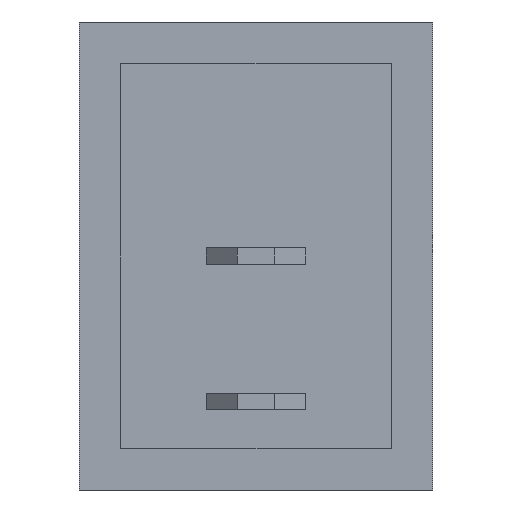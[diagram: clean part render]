
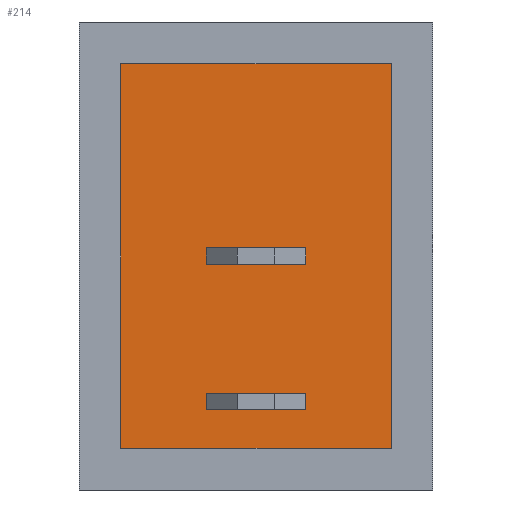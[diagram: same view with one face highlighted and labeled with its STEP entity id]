
A CAD part, front view. The second image highlights one B-rep face of the part: STEP entity #214.
In plain terms, the highlighted planar face has unit normal (0, -1, 0).
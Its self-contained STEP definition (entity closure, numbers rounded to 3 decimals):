
#214 = ADVANCED_FACE ( 'NONE', ( #1028, #1027, #1026 ), #1033, .T. ) ;
#215 = EDGE_LOOP ( 'NONE', ( #228, #312, #315, #318 ) ) ;
#216 = VERTEX_POINT ( 'NONE', #1021 ) ;
#217 = VERTEX_POINT ( 'NONE', #1020 ) ;
#218 = ORIENTED_EDGE ( 'NONE', *, *, #219, .F. ) ;
#219 = EDGE_CURVE ( 'NONE', #220, #230, #1019, .T. ) ;
#220 = VERTEX_POINT ( 'NONE', #1015 ) ;
#221 = ORIENTED_EDGE ( 'NONE', *, *, #222, .F. ) ;
#222 = EDGE_CURVE ( 'NONE', #223, #220, #1014, .T. ) ;
#223 = VERTEX_POINT ( 'NONE', #1010 ) ;
#224 = ORIENTED_EDGE ( 'NONE', *, *, #225, .F. ) ;
#225 = EDGE_CURVE ( 'NONE', #217, #223, #1009, .T. ) ;
#226 = EDGE_LOOP ( 'NONE', ( #227, #270, #273, #276 ) ) ;
#227 = ORIENTED_EDGE ( 'NONE', *, *, #402, .F. ) ;
#228 = ORIENTED_EDGE ( 'NONE', *, *, #310, .F. ) ;
#230 = VERTEX_POINT ( 'NONE', #1041 ) ;
#270 = ORIENTED_EDGE ( 'NONE', *, *, #271, .F. ) ;
#271 = EDGE_CURVE ( 'NONE', #272, #403, #952, .T. ) ;
#272 = VERTEX_POINT ( 'NONE', #947 ) ;
#273 = ORIENTED_EDGE ( 'NONE', *, *, #274, .F. ) ;
#274 = EDGE_CURVE ( 'NONE', #275, #272, #948, .T. ) ;
#275 = VERTEX_POINT ( 'NONE', #995 ) ;
#276 = ORIENTED_EDGE ( 'NONE', *, *, #277, .F. ) ;
#277 = EDGE_CURVE ( 'NONE', #404, #275, #994, .T. ) ;
#310 = EDGE_CURVE ( 'NONE', #216, #311, #1215, .T. ) ;
#311 = VERTEX_POINT ( 'NONE', #1211 ) ;
#312 = ORIENTED_EDGE ( 'NONE', *, *, #313, .F. ) ;
#313 = EDGE_CURVE ( 'NONE', #314, #216, #1140, .T. ) ;
#314 = VERTEX_POINT ( 'NONE', #1136 ) ;
#315 = ORIENTED_EDGE ( 'NONE', *, *, #316, .F. ) ;
#316 = EDGE_CURVE ( 'NONE', #317, #314, #1145, .T. ) ;
#317 = VERTEX_POINT ( 'NONE', #1141 ) ;
#318 = ORIENTED_EDGE ( 'NONE', *, *, #319, .F. ) ;
#319 = EDGE_CURVE ( 'NONE', #311, #317, #1210, .T. ) ;
#320 = EDGE_LOOP ( 'NONE', ( #321, #218, #221, #224 ) ) ;
#321 = ORIENTED_EDGE ( 'NONE', *, *, #322, .F. ) ;
#322 = EDGE_CURVE ( 'NONE', #230, #217, #1206, .T. ) ;
#402 = EDGE_CURVE ( 'NONE', #403, #404, #1217, .T. ) ;
#403 = VERTEX_POINT ( 'NONE', #1278 ) ;
#404 = VERTEX_POINT ( 'NONE', #1277 ) ;
#947 = CARTESIAN_POINT ( 'NONE',  ( 2.4, 0., -7.4 ) ) ;
#948 = LINE ( 'NONE', #998, #997 ) ;
#949 = DIRECTION ( 'NONE',  ( 0., 0., 1. ) ) ;
#950 = VECTOR ( 'NONE', #949, 1000. ) ;
#951 = CARTESIAN_POINT ( 'NONE',  ( 2.4, 0., -6.6 ) ) ;
#952 = LINE ( 'NONE', #951, #950 ) ;
#991 = DIRECTION ( 'NONE',  ( 0., 0., -1. ) ) ;
#992 = VECTOR ( 'NONE', #991, 1000. ) ;
#993 = CARTESIAN_POINT ( 'NONE',  ( -2.4, 0., -6.6 ) ) ;
#994 = LINE ( 'NONE', #993, #992 ) ;
#995 = CARTESIAN_POINT ( 'NONE',  ( -2.4, 0., -7.4 ) ) ;
#996 = DIRECTION ( 'NONE',  ( 1., 0., 0. ) ) ;
#997 = VECTOR ( 'NONE', #996, 1000. ) ;
#998 = CARTESIAN_POINT ( 'NONE',  ( 2.4, 0., -7.4 ) ) ;
#1009 = LINE ( 'NONE', #1048, #1047 ) ;
#1010 = CARTESIAN_POINT ( 'NONE',  ( 6.5, 0., 9.25 ) ) ;
#1011 = DIRECTION ( 'NONE',  ( 0., 0., -1. ) ) ;
#1012 = VECTOR ( 'NONE', #1011, 1000. ) ;
#1013 = CARTESIAN_POINT ( 'NONE',  ( 6.5, 0., 9.25 ) ) ;
#1014 = LINE ( 'NONE', #1013, #1012 ) ;
#1015 = CARTESIAN_POINT ( 'NONE',  ( 6.5, 0., -9.25 ) ) ;
#1016 = DIRECTION ( 'NONE',  ( -1., 0., 0. ) ) ;
#1017 = VECTOR ( 'NONE', #1016, 1000. ) ;
#1018 = CARTESIAN_POINT ( 'NONE',  ( -6.5, 0., -9.25 ) ) ;
#1019 = LINE ( 'NONE', #1018, #1017 ) ;
#1020 = CARTESIAN_POINT ( 'NONE',  ( -6.5, 0., 9.25 ) ) ;
#1021 = CARTESIAN_POINT ( 'NONE',  ( 2.4, 0., 0.4 ) ) ;
#1022 = DIRECTION ( 'NONE',  ( 0., 0., -1. ) ) ;
#1023 = DIRECTION ( 'NONE',  ( 0., -1., 0. ) ) ;
#1024 = CARTESIAN_POINT ( 'NONE',  ( -6.5, 0., 9.25 ) ) ;
#1025 = AXIS2_PLACEMENT_3D ( 'NONE', #1024, #1023, #1022 ) ;
#1026 = FACE_BOUND ( 'NONE', #226, .T. ) ;
#1027 = FACE_OUTER_BOUND ( 'NONE', #320, .T. ) ;
#1028 = FACE_BOUND ( 'NONE', #215, .T. ) ;
#1033 = PLANE ( 'NONE',  #1025 ) ;
#1041 = CARTESIAN_POINT ( 'NONE',  ( -6.5, 0., -9.25 ) ) ;
#1046 = DIRECTION ( 'NONE',  ( 1., 0., 0. ) ) ;
#1047 = VECTOR ( 'NONE', #1046, 1000. ) ;
#1048 = CARTESIAN_POINT ( 'NONE',  ( -6.5, 0., 9.25 ) ) ;
#1136 = CARTESIAN_POINT ( 'NONE',  ( 2.4, 0., -0.4 ) ) ;
#1137 = DIRECTION ( 'NONE',  ( 0., 0., 1. ) ) ;
#1138 = VECTOR ( 'NONE', #1137, 1000. ) ;
#1139 = CARTESIAN_POINT ( 'NONE',  ( 2.4, 0., 0.4 ) ) ;
#1140 = LINE ( 'NONE', #1139, #1138 ) ;
#1141 = CARTESIAN_POINT ( 'NONE',  ( -2.4, 0., -0.4 ) ) ;
#1142 = DIRECTION ( 'NONE',  ( 1., 0., 0. ) ) ;
#1143 = VECTOR ( 'NONE', #1142, 1000. ) ;
#1144 = CARTESIAN_POINT ( 'NONE',  ( 2.4, 0., -0.4 ) ) ;
#1145 = LINE ( 'NONE', #1144, #1143 ) ;
#1203 = DIRECTION ( 'NONE',  ( 0., 0., 1. ) ) ;
#1204 = VECTOR ( 'NONE', #1203, 1000. ) ;
#1205 = CARTESIAN_POINT ( 'NONE',  ( -6.5, 0., 9.25 ) ) ;
#1206 = LINE ( 'NONE', #1205, #1204 ) ;
#1207 = DIRECTION ( 'NONE',  ( 0., 0., -1. ) ) ;
#1208 = VECTOR ( 'NONE', #1207, 1000. ) ;
#1209 = CARTESIAN_POINT ( 'NONE',  ( -2.4, 0., 0.4 ) ) ;
#1210 = LINE ( 'NONE', #1209, #1208 ) ;
#1211 = CARTESIAN_POINT ( 'NONE',  ( -2.4, 0., 0.4 ) ) ;
#1212 = DIRECTION ( 'NONE',  ( -1., 0., 0. ) ) ;
#1213 = VECTOR ( 'NONE', #1212, 1000. ) ;
#1214 = CARTESIAN_POINT ( 'NONE',  ( 2.4, 0., 0.4 ) ) ;
#1215 = LINE ( 'NONE', #1214, #1213 ) ;
#1217 = LINE ( 'NONE', #1281, #1280 ) ;
#1277 = CARTESIAN_POINT ( 'NONE',  ( -2.4, 0., -6.6 ) ) ;
#1278 = CARTESIAN_POINT ( 'NONE',  ( 2.4, 0., -6.6 ) ) ;
#1279 = DIRECTION ( 'NONE',  ( -1., 0., 0. ) ) ;
#1280 = VECTOR ( 'NONE', #1279, 1000. ) ;
#1281 = CARTESIAN_POINT ( 'NONE',  ( 2.4, 0., -6.6 ) ) ;
